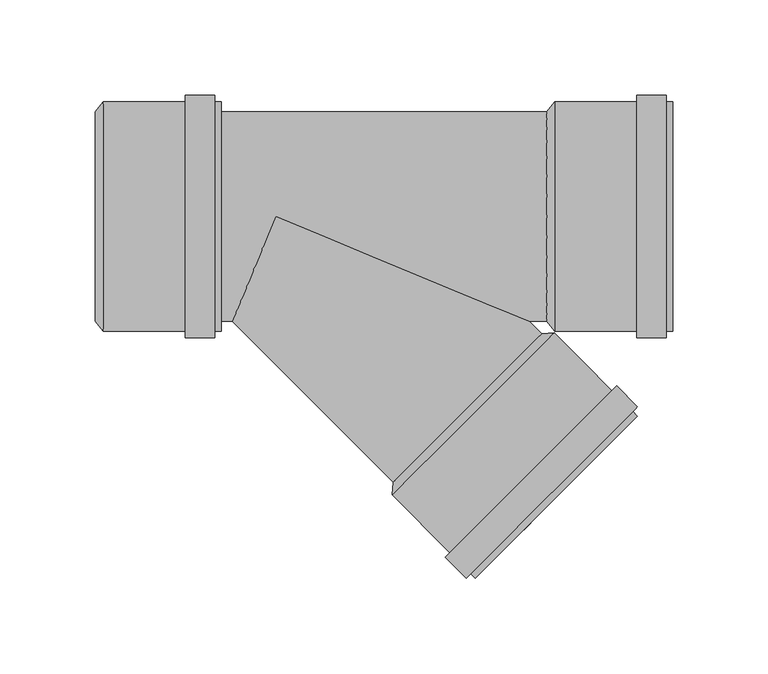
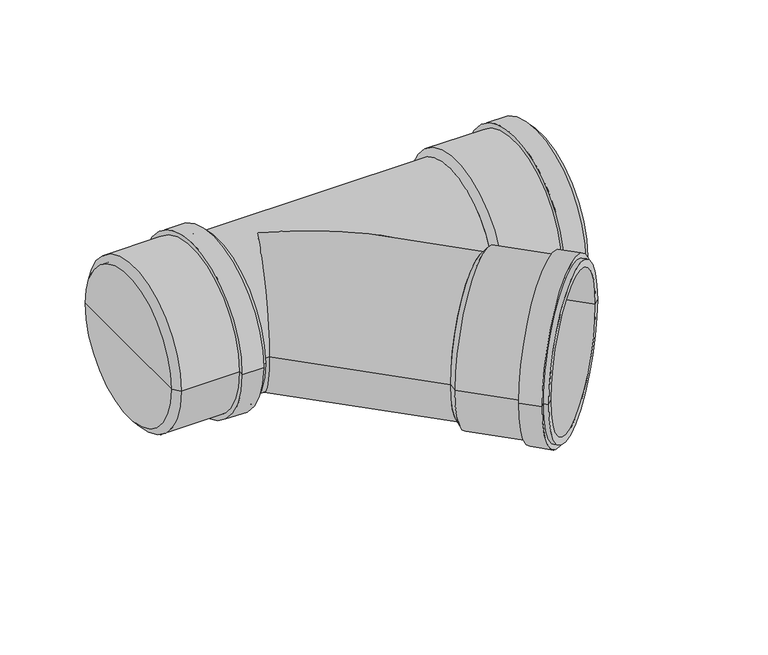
"""IFC4 building model written with IfcOpenShell, lengths in millimetres: pipe fitting geometry, pf_KGEA : pf_KGEA."""

import ifcopenshell
import ifcopenshell.guid

model = None  # the IFC model being written
_history = None  # IfcOwnerHistory: only IFC2X3 demands one
_inside = {}  # id of a spatial element -> (the spatial element, [elements in it])
_under = {}  # id of a project, library or spatial element -> (it, [spatial elements below it])
_declared = {}  # id of a project -> (the project, [libraries it declares])
_typed = {}  # id of a type object -> (the type object, [elements of that type])
_made_of = {}  # id of a material, layer set ... -> (it, [elements and type objects made of it])


def new_model(schema):
    """Start an empty IFC model of exactly this schema.

    Asked for "IFC4X3", IfcOpenShell would pick the latest addendum, in which some entities
    have other attributes; the version numbers below select the first issue.
    IFC2X3 requires an IfcOwnerHistory on every rooted entity: one is made here for all.
    """
    global model, _history
    if schema == "IFC4X3":
        model = ifcopenshell.file(schema_version=(4, 3, 0, 0))
    else:
        model = ifcopenshell.file(schema=schema)
    _inside.clear()
    _under.clear()
    _declared.clear()
    _typed.clear()
    _made_of.clear()
    _history = None
    if model.schema == "IFC2X3":
        org = make("IfcOrganization", Name="unknown")
        user = make(
            "IfcPersonAndOrganization",
            ThePerson=make("IfcPerson", FamilyName="unknown"),
            TheOrganization=org,
        )
        app = make(
            "IfcApplication",
            ApplicationDeveloper=org,
            Version="unknown",
            ApplicationFullName="unknown",
            ApplicationIdentifier="unknown",
        )
        _history = make(
            "IfcOwnerHistory",
            OwningUser=user,
            OwningApplication=app,
            ChangeAction="ADDED",
            CreationDate=0,
        )
    return model


def make(cls, **values):
    """One entity of the class cls with the attributes given. An attribute that is None is left unset."""
    return model.create_entity(
        cls, **{name: value for name, value in values.items() if value is not None}
    )


def rooted(cls, **values):
    """An entity with a GlobalId (a new one), such as an element, a storey or a relation."""
    return make(cls, GlobalId=ifcopenshell.guid.new(), OwnerHistory=_history, **values)


def si_unit(unit_type, name, prefix=None):
    """IfcSIUnit, for example si_unit("LENGTHUNIT", "METRE", prefix="MILLI")."""
    return make("IfcSIUnit", UnitType=unit_type, Prefix=prefix, Name=name)


def assignment(units):
    """IfcUnitAssignment: the units of a project."""
    return None if units is None else make("IfcUnitAssignment", Units=units)


def point(xyz):
    """IfcCartesianPoint."""
    return None if xyz is None else make("IfcCartesianPoint", Coordinates=xyz)


def direction(xyz):
    """IfcDirection."""
    return None if xyz is None else make("IfcDirection", DirectionRatios=xyz)


def frame(location, z_axis=None, x_axis=None):
    """IfcAxis2Placement3D, a coordinate frame: its origin and axes. An axis left out is left unset."""
    return make(
        "IfcAxis2Placement3D",
        Location=point(location),
        Axis=direction(z_axis),
        RefDirection=direction(x_axis),
    )


def origin():
    """The frame at (0, 0, 0) with its axes left unset."""
    return frame((0.0, 0.0, 0.0))


def place(relative_to, where):
    """IfcLocalPlacement: puts the frame where relative to a parent placement (None: the world)."""
    return make(
        "IfcLocalPlacement", PlacementRelTo=relative_to, RelativePlacement=where
    )


def context(
    kind, dimensions, precision=None, world=None, true_north=None, identifier=None
):
    """IfcGeometricRepresentationContext, for example the 3D "Model" context."""
    return make(
        "IfcGeometricRepresentationContext",
        ContextIdentifier=identifier,
        ContextType=kind,
        CoordinateSpaceDimension=dimensions,
        Precision=precision,
        WorldCoordinateSystem=world,
        TrueNorth=true_north,
    )


def project(units=None, contexts=None):
    """IfcProject with its units and contexts."""
    return rooted(
        "IfcProject",
        Name="project",
        RepresentationContexts=contexts,
        UnitsInContext=assignment(units),
    )


def spatial(cls, under=None, at=None, **own):
    """A site, building, storey or space (cls), placed at a placement, below another one or the project."""
    s = rooted(cls, ObjectPlacement=at, **own)
    if under is not None:
        _under.setdefault(under.id(), (under, []))[1].append(s)
    return s


def polyline(points):
    """IfcPolyline through the points."""
    return make("IfcPolyline", Points=[point(p) for p in points])


def circle_curve(where, radius):
    """IfcCircle in the frame where."""
    return make("IfcCircle", Position=where, Radius=radius)


def ellipse_curve(where, semi_axis1, semi_axis2):
    """IfcEllipse in the frame where."""
    return make(
        "IfcEllipse", Position=where, SemiAxis1=semi_axis1, SemiAxis2=semi_axis2
    )


def shape(context_of_items, identifier, shape_type, items):
    """IfcShapeRepresentation: the items that make up one representation, for example the "Body"."""
    return make(
        "IfcShapeRepresentation",
        ContextOfItems=context_of_items,
        RepresentationIdentifier=identifier,
        RepresentationType=shape_type,
        Items=items,
    )


def source(mapping_origin, context_of_items, identifier, shape_type, items):
    """IfcRepresentationMap: a shape defined once, which mapped items show again and again."""
    return make(
        "IfcRepresentationMap",
        MappingOrigin=mapping_origin,
        MappedRepresentation=shape(context_of_items, identifier, shape_type, items),
    )


def transform(
    local_origin,
    x_axis=None,
    y_axis=None,
    z_axis=None,
    scale=None,
    scale2=None,
    scale3=None,
    uniform=True,
):
    """IfcCartesianTransformationOperator3D, or its non-uniform kind. x_axis, y_axis, z_axis: its Axis1, 2, 3."""
    if uniform:
        return make(
            "IfcCartesianTransformationOperator3D",
            Axis1=direction(x_axis),
            Axis2=direction(y_axis),
            LocalOrigin=point(local_origin),
            Scale=scale,
            Axis3=direction(z_axis),
        )
    return make(
        "IfcCartesianTransformationOperator3DnonUniform",
        Axis1=direction(x_axis),
        Axis2=direction(y_axis),
        LocalOrigin=point(local_origin),
        Scale=scale,
        Axis3=direction(z_axis),
        Scale2=scale2,
        Scale3=scale3,
    )


def mapped(mapping_source, mapping_target):
    """IfcMappedItem: shows the shape of a source again, moved by a transform."""
    return make(
        "IfcMappedItem", MappingSource=mapping_source, MappingTarget=mapping_target
    )


def made_of(thing, what):
    """Note that an element or type object is made of a material, layer set ...; save() writes the relation."""
    if what is not None:
        _made_of.setdefault(what.id(), (what, []))[1].append(thing)
    return thing


def element(
    cls,
    number,
    at=None,
    inside=None,
    cuts=None,
    type_object=None,
    material=None,
    context=None,
    identifier="Body",
    shape_type=None,
    held_by="IfcProductDefinitionShape",
    body=None,
    shapes=None,
    **own,
):
    """One element of the class cls, such as IfcWall. Its Tag is "e" and its number.

    at: its placement. inside: the storey or other place that contains it. cuts: it is an
    opening in that element (IfcRelVoidsElement). A single representation is given by context,
    identifier, shape_type and body (its items); several are given by shapes. held_by: the class
    of the entity that holds the representations. save() writes the other relations.
    """
    e = rooted(cls, Tag="e%d" % number, ObjectPlacement=at, **own)
    if body is not None:
        shapes = [shape(context, identifier, shape_type, body)]
    if shapes is not None:
        e.Representation = make(held_by, Representations=shapes)
    if inside is not None:
        _inside.setdefault(inside.id(), (inside, []))[1].append(e)
    if cuts is not None:
        rooted(
            "IfcRelVoidsElement", RelatingBuildingElement=cuts, RelatedOpeningElement=e
        )
    if type_object is not None:
        _typed.setdefault(type_object.id(), (type_object, []))[1].append(e)
    return made_of(e, material)


def aggregate(whole, parts):
    """IfcRelAggregates: a whole, such as a stair, and the parts it consists of."""
    return rooted("IfcRelAggregates", RelatingObject=whole, RelatedObjects=parts)


def save(model, path):
    """Write the relations noted so far, then the file.

    IfcRelAggregates (storeys below a building ...), IfcRelContainedInSpatialStructure (elements
    in a storey), IfcRelDefinesByType, IfcRelAssociatesMaterial and IfcRelDeclares: one each for
    every whole, place, type object, material and project.
    """
    for whole, parts in _under.values():
        aggregate(whole, parts)
    for where, things in _inside.values():
        rooted(
            "IfcRelContainedInSpatialStructure",
            RelatedElements=things,
            RelatingStructure=where,
        )
    for kind, things in _typed.values():
        rooted("IfcRelDefinesByType", RelatedObjects=things, RelatingType=kind)
    for what, things in _made_of.values():
        rooted("IfcRelAssociatesMaterial", RelatedObjects=things, RelatingMaterial=what)
    for by, libraries in _declared.values():
        rooted("IfcRelDeclares", RelatingContext=by, RelatedDefinitions=libraries)
    model.write(path)


def plane_surface(at):
    """IfcPlane: the flat surface through the origin of the frame at, square to its z axis."""
    return make("IfcPlane", Position=at)


def cylinder_surface(at, radius):
    """IfcCylindricalSurface: all points at the distance radius from the z axis of the frame at."""
    return make("IfcCylindricalSurface", Position=at, Radius=radius)


def revolved_surface(curve, axis_point, axis_direction):
    """IfcSurfaceOfRevolution: the curve turned about the line through axis_point along axis_direction."""
    return make(
        "IfcSurfaceOfRevolution",
        SweptCurve=make("IfcArbitraryOpenProfileDef", ProfileType="CURVE", Curve=curve),
        AxisPosition=make("IfcAxis1Placement", Location=point(axis_point), Axis=direction(axis_direction)),
    )


def advanced_brep(points, edges, surfaces, faces):
    """IfcAdvancedBrep: a solid bounded by faces that lie on surfaces and meet in shared edges.

    An edge is (start, end): straight between two places in points (the first is 0);
    or (start, end, curve); or (start, end, curve, False) where it runs against its curve.
    A face is (place in surfaces, loops), or (place, loops, False) where it looks against
    its surface's normal. A loop lists edges by number (the first is 1), with a minus sign
    where the edge is run from its end to its start. The first loop is the outer one.
    """
    corners = [point(p) for p in points]
    vertices = [make("IfcVertexPoint", VertexGeometry=c) for c in corners]
    made = []
    for start, end, *more in edges:
        made.append(
            make(
                "IfcEdgeCurve",
                EdgeStart=vertices[start],
                EdgeEnd=vertices[end],
                EdgeGeometry=more[0] if more else make("IfcPolyline", Points=[corners[start], corners[end]]),
                SameSense=more[1] if len(more) > 1 else True,
            )
        )
    hull = []
    for where, loops, *sense in faces:
        bounds = []
        for j, loop in enumerate(loops):
            ring = [make("IfcOrientedEdge", EdgeElement=made[abs(k) - 1], Orientation=k > 0) for k in loop]
            bounds.append(
                make(
                    "IfcFaceOuterBound" if j == 0 else "IfcFaceBound",
                    Bound=make("IfcEdgeLoop", EdgeList=ring),
                    Orientation=True,
                )
            )
        hull.append(make("IfcAdvancedFace", Bounds=bounds, FaceSurface=surfaces[where], SameSense=sense[0] if sense else True))
    return make("IfcAdvancedBrep", Outer=make("IfcClosedShell", CfsFaces=hull))


def pipe_fitting_2837489d(model_context):
    return source(origin(), model_context, "Body", "AdvancedBrep", [
        advanced_brep(
        [(61.5890006, -139.3707466, 0.0), (139.3707466, -61.5890006, 0.0), (145.9468396, -60.9526045, 0.0), (60.9526045, -145.9468396, 0.0), (100.4798736, -100.4798736, 0.0), (104.6518036, -189.6460387, 0.0), (189.6460387, -104.6518036, 0.0), (186.0397941, -108.2580482, 0.0), (108.2580482, -186.0397941, 0.0), (102.2476406, -187.2418757, 0.0), (187.2418757, -102.2476406, 0.0), (99.8434775, -189.6460387, 0.0), (189.6460387, -99.8434775, 0.0), (88.8833224, -178.6858836, 0.0), (178.6858836, -88.8833224, 0.0), (91.2874855, -176.2817205, 0.0), (176.2817205, -91.2874855, 0.0), (64.5588491, -142.3405951, 0.0), (142.3405951, -64.5588491, 0.0), (103.4497221, -103.4497221, 0.0)],
        [
            (0, 1, circle_curve(frame((100.4798736, -100.4798736, 0.0), z_axis=(0.7071067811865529, -0.7071067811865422, 0.0), x_axis=(0.7071067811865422, 0.7071067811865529, 0.0)), 55.0)),
            (1, 2),
            (2, 3, circle_curve(frame((103.4497221, -103.4497221, 0.0), z_axis=(-0.7071067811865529, 0.7071067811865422, 0.0), x_axis=(0.7071067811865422, 0.7071067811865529, 0.0)), 60.1)),
            (3, 0),
            (1, 0, circle_curve(frame((100.4798736, -100.4798736, 0.0), z_axis=(0.7071067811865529, -0.7071067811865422, 0.0), x_axis=(0.7071067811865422, 0.7071067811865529, 0.0)), 55.0)),
            (3, 2, circle_curve(frame((103.4497221, -103.4497221, 0.0), z_axis=(-0.7071067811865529, 0.7071067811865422, 0.0), x_axis=(0.7071067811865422, 0.7071067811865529, 0.0)), 60.1)),
            (4, 1),
            (0, 4),
            (5, 6, circle_curve(frame((147.1489212, -147.1489212, 0.0), z_axis=(0.7071067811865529, -0.7071067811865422, 0.0), x_axis=(0.7071067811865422, 0.7071067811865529, 0.0)), 60.1)),
            (6, 7),
            (7, 8, circle_curve(frame((147.1489212, -147.1489212, 0.0), z_axis=(-0.7071067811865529, 0.7071067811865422, 0.0), x_axis=(0.7071067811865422, 0.7071067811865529, 0.0)), 55.0)),
            (8, 5),
            (6, 5, circle_curve(frame((147.1489212, -147.1489212, 0.0), z_axis=(0.7071067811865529, -0.7071067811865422, 0.0), x_axis=(0.7071067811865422, 0.7071067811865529, 0.0)), 60.1)),
            (8, 7, circle_curve(frame((147.1489212, -147.1489212, 0.0), z_axis=(-0.7071067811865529, 0.7071067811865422, 0.0), x_axis=(0.7071067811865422, 0.7071067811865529, 0.0)), 55.0)),
            (9, 10, circle_curve(frame((144.7447581, -144.7447581, 0.0), z_axis=(0.7071067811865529, -0.7071067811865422, 0.0), x_axis=(0.7071067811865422, 0.7071067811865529, 0.0)), 60.1)),
            (10, 6),
            (5, 9),
            (10, 9, circle_curve(frame((144.7447581, -144.7447581, 0.0), z_axis=(0.7071067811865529, -0.7071067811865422, 0.0), x_axis=(0.7071067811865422, 0.7071067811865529, 0.0)), 60.1)),
            (11, 12, circle_curve(frame((144.7447581, -144.7447581, 0.0), z_axis=(0.7071067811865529, -0.7071067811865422, 0.0), x_axis=(0.7071067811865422, 0.7071067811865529, 0.0)), 63.5)),
            (12, 10),
            (9, 11),
            (12, 11, circle_curve(frame((144.7447581, -144.7447581, 0.0), z_axis=(0.7071067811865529, -0.7071067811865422, 0.0), x_axis=(0.7071067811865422, 0.7071067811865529, 0.0)), 63.5)),
            (13, 14, circle_curve(frame((133.784603, -133.784603, 0.0), z_axis=(0.7071067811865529, -0.7071067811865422, 0.0), x_axis=(0.7071067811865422, 0.7071067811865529, 0.0)), 63.5)),
            (14, 12),
            (11, 13),
            (14, 13, circle_curve(frame((133.784603, -133.784603, 0.0), z_axis=(0.7071067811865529, -0.7071067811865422, 0.0), x_axis=(0.7071067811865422, 0.7071067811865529, 0.0)), 63.5)),
            (15, 16, circle_curve(frame((133.784603, -133.784603, 0.0), z_axis=(0.7071067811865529, -0.7071067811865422, 0.0), x_axis=(0.7071067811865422, 0.7071067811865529, 0.0)), 60.1)),
            (16, 14),
            (13, 15),
            (16, 15, circle_curve(frame((133.784603, -133.784603, 0.0), z_axis=(0.7071067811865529, -0.7071067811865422, 0.0), x_axis=(0.7071067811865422, 0.7071067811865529, 0.0)), 60.1)),
            (2, 16),
            (15, 3),
            (17, 18, circle_curve(frame((103.4497221, -103.4497221, 0.0), z_axis=(0.7071067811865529, -0.7071067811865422, 0.0), x_axis=(0.7071067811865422, 0.7071067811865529, 0.0)), 55.0)),
            (18, 19),
            (19, 17),
            (18, 17, circle_curve(frame((103.4497221, -103.4497221, 0.0), z_axis=(0.7071067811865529, -0.7071067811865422, 0.0), x_axis=(0.7071067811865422, 0.7071067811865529, 0.0)), 55.0)),
            (7, 18),
            (17, 8),
        ],
        [
            revolved_surface(polyline([(145.9468396, -60.9526045, 0.0), (139.3707466, -61.5890006, 0.0)]), (100.4798736, -100.4798736, 0.0), (-0.7071067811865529, 0.7071067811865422, 0.0)),
            plane_surface(frame((100.4798736, -100.4798736, 0.0), z_axis=(-0.7071067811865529, 0.7071067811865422, 0.0), x_axis=(0.7071067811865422, 0.7071067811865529, 0.0))),
            plane_surface(frame((147.1489212, -147.1489212, 0.0), z_axis=(0.7071067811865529, -0.7071067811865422, 0.0), x_axis=(0.7071067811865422, 0.7071067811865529, 0.0))),
            cylinder_surface(frame((100.4798736, -100.4798736, 0.0), z_axis=(-0.7071067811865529, 0.7071067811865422, 0.0), x_axis=(0.7071067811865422, 0.7071067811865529, 0.0)), 60.1),
            plane_surface(frame((144.7447581, -144.7447581, 0.0), z_axis=(0.7071067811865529, -0.7071067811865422, 0.0), x_axis=(0.7071067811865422, 0.7071067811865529, 0.0))),
            cylinder_surface(frame((100.4798736, -100.4798736, 0.0), z_axis=(-0.7071067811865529, 0.7071067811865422, 0.0), x_axis=(0.7071067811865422, 0.7071067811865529, 0.0)), 63.5),
            plane_surface(frame((133.784603, -133.784603, 0.0), z_axis=(-0.7071067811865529, 0.7071067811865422, 0.0), x_axis=(0.7071067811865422, 0.7071067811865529, 0.0))),
            plane_surface(frame((103.4497221, -103.4497221, 0.0), z_axis=(0.7071067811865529, -0.7071067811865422, 0.0), x_axis=(0.7071067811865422, 0.7071067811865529, 0.0))),
            revolved_surface(polyline([(142.34059506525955, -64.55884913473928, 0.0), (186.03979416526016, -108.25804823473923, 0.0)]), (100.4798736, -100.4798736, 0.0), (-0.7071067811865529, 0.7071067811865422, 0.0)),
        ],
        [
            (0, [[1, 2, 3, 4]]),
            (0, [[5, -4, 6, -2]]),
            (1, [[7, -1, 8]]),
            (1, [[-8, -5, -7]]),
            (2, [[9, 10, 11, 12]]),
            (2, [[13, -12, 14, -10]]),
            (3, [[15, 16, -9, 17]]),
            (3, [[18, -17, -13, -16]]),
            (4, [[19, 20, -15, 21]]),
            (4, [[22, -21, -18, -20]]),
            (5, [[23, 24, -19, 25]]),
            (5, [[26, -25, -22, -24]]),
            (6, [[27, 28, -23, 29]]),
            (6, [[30, -29, -26, -28]]),
            (3, [[-3, 31, -27, 32]]),
            (3, [[-6, -32, -30, -31]]),
            (7, [[33, 34, 35]]),
            (7, [[36, -35, -34]]),
            (8, [[-11, 37, -33, 38]]),
            (8, [[-14, -38, -36, -37]]),
        ],
    ),
        advanced_brep(
        [(142.1, -55.0, 0.0), (142.1, 55.0, 0.0), (146.3, 60.1, 0.0), (146.3, -60.1, 0.0), (142.1, 0.0, 0.0), (208.1, -60.1, 0.0), (208.1, 60.1, 0.0), (208.1, 55.0, 0.0), (208.1, -55.0, 0.0), (204.7, -60.1, 0.0), (204.7, 60.1, 0.0), (204.7, -63.5, 0.0), (204.7, 63.5, 0.0), (189.2, -63.5, 0.0), (189.2, 63.5, 0.0), (189.2, -60.1, 0.0), (189.2, 60.1, 0.0), (146.3, -55.0, 0.0), (146.3, 55.0, 0.0), (146.3, 0.0, 0.0)],
        [
            (0, 1, circle_curve(frame((142.1, 0.0, 0.0), z_axis=(1.0, 0.0, 0.0), x_axis=(0.0, 1.0, 0.0)), 55.0)),
            (1, 2),
            (2, 3, circle_curve(frame((146.3, 0.0, 0.0), z_axis=(-1.0, 0.0, 0.0), x_axis=(0.0, 1.0, 0.0)), 60.1)),
            (3, 0),
            (1, 0, circle_curve(frame((142.1, 0.0, 0.0), z_axis=(1.0, 0.0, 0.0), x_axis=(0.0, 1.0, 0.0)), 55.0)),
            (3, 2, circle_curve(frame((146.3, 0.0, 0.0), z_axis=(-1.0, 0.0, 0.0), x_axis=(0.0, 1.0, 0.0)), 60.1)),
            (4, 1),
            (0, 4),
            (5, 6, circle_curve(frame((208.1, 0.0, 0.0), z_axis=(1.0, 0.0, 0.0), x_axis=(0.0, 1.0, 0.0)), 60.1)),
            (6, 7),
            (7, 8, circle_curve(frame((208.1, 0.0, 0.0), z_axis=(-1.0, 0.0, 0.0), x_axis=(0.0, 1.0, 0.0)), 55.0)),
            (8, 5),
            (6, 5, circle_curve(frame((208.1, 0.0, 0.0), z_axis=(1.0, 0.0, 0.0), x_axis=(0.0, 1.0, 0.0)), 60.1)),
            (8, 7, circle_curve(frame((208.1, 0.0, 0.0), z_axis=(-1.0, 0.0, 0.0), x_axis=(0.0, 1.0, 0.0)), 55.0)),
            (9, 10, circle_curve(frame((204.7, 0.0, 0.0), z_axis=(1.0, 0.0, 0.0), x_axis=(0.0, 1.0, 0.0)), 60.1)),
            (10, 6),
            (5, 9),
            (10, 9, circle_curve(frame((204.7, 0.0, 0.0), z_axis=(1.0, 0.0, 0.0), x_axis=(0.0, 1.0, 0.0)), 60.1)),
            (11, 12, circle_curve(frame((204.7, 0.0, 0.0), z_axis=(1.0, 0.0, 0.0), x_axis=(0.0, 1.0, 0.0)), 63.5)),
            (12, 10),
            (9, 11),
            (12, 11, circle_curve(frame((204.7, 0.0, 0.0), z_axis=(1.0, 0.0, 0.0), x_axis=(0.0, 1.0, 0.0)), 63.5)),
            (13, 14, circle_curve(frame((189.2, 0.0, 0.0), z_axis=(1.0, 0.0, 0.0), x_axis=(0.0, 1.0, 0.0)), 63.5)),
            (14, 12),
            (11, 13),
            (14, 13, circle_curve(frame((189.2, 0.0, 0.0), z_axis=(1.0, 0.0, 0.0), x_axis=(0.0, 1.0, 0.0)), 63.5)),
            (15, 16, circle_curve(frame((189.2, 0.0, 0.0), z_axis=(1.0, 0.0, 0.0), x_axis=(0.0, 1.0, 0.0)), 60.1)),
            (16, 14),
            (13, 15),
            (16, 15, circle_curve(frame((189.2, 0.0, 0.0), z_axis=(1.0, 0.0, 0.0), x_axis=(0.0, 1.0, 0.0)), 60.1)),
            (2, 16),
            (15, 3),
            (17, 18, circle_curve(frame((146.3, 0.0, 0.0), z_axis=(1.0, 0.0, 0.0), x_axis=(0.0, 1.0, 0.0)), 55.0)),
            (18, 19),
            (19, 17),
            (18, 17, circle_curve(frame((146.3, 0.0, 0.0), z_axis=(1.0, 0.0, 0.0), x_axis=(0.0, 1.0, 0.0)), 55.0)),
            (7, 18),
            (17, 8),
        ],
        [
            revolved_surface(polyline([(146.3, 60.1, 0.0), (142.1, 55.0, 0.0)]), (142.1, 0.0, 0.0), (-1.0, 0.0, 0.0)),
            plane_surface(frame((142.1, 0.0, 0.0), z_axis=(-1.0, 0.0, 0.0), x_axis=(0.0, 1.0, 0.0))),
            plane_surface(frame((208.1, 0.0, 0.0), z_axis=(1.0, 0.0, 0.0), x_axis=(0.0, 1.0, 0.0))),
            cylinder_surface(frame((142.1, 0.0, 0.0), z_axis=(-1.0, 0.0, 0.0), x_axis=(0.0, 1.0, 0.0)), 60.1),
            plane_surface(frame((204.7, 0.0, 0.0), z_axis=(1.0, 0.0, 0.0), x_axis=(0.0, 1.0, 0.0))),
            cylinder_surface(frame((142.1, 0.0, 0.0), z_axis=(-1.0, 0.0, 0.0), x_axis=(0.0, 1.0, 0.0)), 63.5),
            plane_surface(frame((189.2, 0.0, 0.0), z_axis=(-1.0, 0.0, 0.0), x_axis=(0.0, 1.0, 0.0))),
            plane_surface(frame((146.3, 0.0, 0.0), z_axis=(1.0, 0.0, 0.0), x_axis=(0.0, 1.0, 0.0))),
            revolved_surface(polyline([(146.3, 55.0, 0.0), (208.1, 55.0, 0.0)]), (142.1, 0.0, 0.0), (-1.0, 0.0, 0.0)),
        ],
        [
            (0, [[1, 2, 3, 4]]),
            (0, [[5, -4, 6, -2]]),
            (1, [[7, -1, 8]]),
            (1, [[-8, -5, -7]]),
            (2, [[9, 10, 11, 12]]),
            (2, [[13, -12, 14, -10]]),
            (3, [[15, 16, -9, 17]]),
            (3, [[18, -17, -13, -16]]),
            (4, [[19, 20, -15, 21]]),
            (4, [[22, -21, -18, -20]]),
            (5, [[23, 24, -19, 25]]),
            (5, [[26, -25, -22, -24]]),
            (6, [[27, 28, -23, 29]]),
            (6, [[30, -29, -26, -28]]),
            (3, [[-3, 31, -27, 32]]),
            (3, [[-6, -32, -30, -31]]),
            (7, [[33, 34, 35]]),
            (7, [[36, -35, -34]]),
            (8, [[-11, 37, -33, 38]]),
            (8, [[-14, -38, -36, -37]]),
        ],
    ),
        advanced_brep(
        [(-94.6, -55.0, 0.0), (-94.6, 55.0, 0.0), (-90.4, 60.1, 0.0), (-90.4, -60.1, 0.0), (-94.6, 0.0, 0.0), (-28.6, -60.1, 0.0), (-28.6, 60.1, 0.0), (-28.6, 55.0, 0.0), (-28.6, -55.0, 0.0), (-32.0, -60.1, 0.0), (-32.0, 60.1, 0.0), (-32.0, -63.5, 0.0), (-32.0, 63.5, 0.0), (-47.5, -63.5, 0.0), (-47.5, 63.5, 0.0), (-47.5, -60.1, 0.0), (-47.5, 60.1, 0.0), (-90.4, -55.0, 0.0), (-90.4, 55.0, 0.0), (-90.4, 0.0, 0.0)],
        [
            (0, 1, circle_curve(frame((-94.6, 0.0, 0.0), z_axis=(1.0, 0.0, 0.0), x_axis=(0.0, 1.0, 0.0)), 55.0)),
            (1, 2),
            (2, 3, circle_curve(frame((-90.4, 0.0, 0.0), z_axis=(-1.0, 0.0, 0.0), x_axis=(0.0, 1.0, 0.0)), 60.1)),
            (3, 0),
            (1, 0, circle_curve(frame((-94.6, 0.0, 0.0), z_axis=(1.0, 0.0, 0.0), x_axis=(0.0, 1.0, 0.0)), 55.0)),
            (3, 2, circle_curve(frame((-90.4, 0.0, 0.0), z_axis=(-1.0, 0.0, 0.0), x_axis=(0.0, 1.0, 0.0)), 60.1)),
            (4, 1),
            (0, 4),
            (5, 6, circle_curve(frame((-28.6, 0.0, 0.0), z_axis=(1.0, 0.0, 0.0), x_axis=(0.0, 1.0, 0.0)), 60.1)),
            (6, 7),
            (7, 8, circle_curve(frame((-28.6, 0.0, 0.0), z_axis=(-1.0, 0.0, 0.0), x_axis=(0.0, 1.0, 0.0)), 55.0)),
            (8, 5),
            (6, 5, circle_curve(frame((-28.6, 0.0, 0.0), z_axis=(1.0, 0.0, 0.0), x_axis=(0.0, 1.0, 0.0)), 60.1)),
            (8, 7, circle_curve(frame((-28.6, 0.0, 0.0), z_axis=(-1.0, 0.0, 0.0), x_axis=(0.0, 1.0, 0.0)), 55.0)),
            (9, 10, circle_curve(frame((-32.0, 0.0, 0.0), z_axis=(1.0, 0.0, 0.0), x_axis=(0.0, 1.0, 0.0)), 60.1)),
            (10, 6),
            (5, 9),
            (10, 9, circle_curve(frame((-32.0, 0.0, 0.0), z_axis=(1.0, 0.0, 0.0), x_axis=(0.0, 1.0, 0.0)), 60.1)),
            (11, 12, circle_curve(frame((-32.0, 0.0, 0.0), z_axis=(1.0, 0.0, 0.0), x_axis=(0.0, 1.0, 0.0)), 63.5)),
            (12, 10),
            (9, 11),
            (12, 11, circle_curve(frame((-32.0, 0.0, 0.0), z_axis=(1.0, 0.0, 0.0), x_axis=(0.0, 1.0, 0.0)), 63.5)),
            (13, 14, circle_curve(frame((-47.5, 0.0, 0.0), z_axis=(1.0, 0.0, 0.0), x_axis=(0.0, 1.0, 0.0)), 63.5)),
            (14, 12),
            (11, 13),
            (14, 13, circle_curve(frame((-47.5, 0.0, 0.0), z_axis=(1.0, 0.0, 0.0), x_axis=(0.0, 1.0, 0.0)), 63.5)),
            (15, 16, circle_curve(frame((-47.5, 0.0, 0.0), z_axis=(1.0, 0.0, 0.0), x_axis=(0.0, 1.0, 0.0)), 60.1)),
            (16, 14),
            (13, 15),
            (16, 15, circle_curve(frame((-47.5, 0.0, 0.0), z_axis=(1.0, 0.0, 0.0), x_axis=(0.0, 1.0, 0.0)), 60.1)),
            (2, 16),
            (15, 3),
            (17, 18, circle_curve(frame((-90.4, 0.0, 0.0), z_axis=(1.0, 0.0, 0.0), x_axis=(0.0, 1.0, 0.0)), 55.0)),
            (18, 19),
            (19, 17),
            (18, 17, circle_curve(frame((-90.4, 0.0, 0.0), z_axis=(1.0, 0.0, 0.0), x_axis=(0.0, 1.0, 0.0)), 55.0)),
            (7, 18),
            (17, 8),
        ],
        [
            revolved_surface(polyline([(-90.4, 60.1, 0.0), (-94.6, 55.0, 0.0)]), (-94.6, 0.0, 0.0), (-1.0, 0.0, 0.0)),
            plane_surface(frame((-94.6, 0.0, 0.0), z_axis=(-1.0, 0.0, 0.0), x_axis=(0.0, 1.0, 0.0))),
            plane_surface(frame((-28.6, 0.0, 0.0), z_axis=(1.0, 0.0, 0.0), x_axis=(0.0, 1.0, 0.0))),
            cylinder_surface(frame((-94.6, 0.0, 0.0), z_axis=(-1.0, 0.0, 0.0), x_axis=(0.0, 1.0, 0.0)), 60.1),
            plane_surface(frame((-32.0, 0.0, 0.0), z_axis=(1.0, 0.0, 0.0), x_axis=(0.0, 1.0, 0.0))),
            cylinder_surface(frame((-94.6, 0.0, 0.0), z_axis=(-1.0, 0.0, 0.0), x_axis=(0.0, 1.0, 0.0)), 63.5),
            plane_surface(frame((-47.5, 0.0, 0.0), z_axis=(-1.0, 0.0, 0.0), x_axis=(0.0, 1.0, 0.0))),
            plane_surface(frame((-90.4, 0.0, 0.0), z_axis=(1.0, 0.0, 0.0), x_axis=(0.0, 1.0, 0.0))),
            revolved_surface(polyline([(-90.4, 55.0, 0.0), (-28.599999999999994, 55.0, 0.0)]), (-94.6, 0.0, 0.0), (-1.0, 0.0, 0.0)),
        ],
        [
            (0, [[1, 2, 3, 4]]),
            (0, [[5, -4, 6, -2]]),
            (1, [[7, -1, 8]]),
            (1, [[-8, -5, -7]]),
            (2, [[9, 10, 11, 12]]),
            (2, [[13, -12, 14, -10]]),
            (3, [[15, 16, -9, 17]]),
            (3, [[18, -17, -13, -16]]),
            (4, [[19, 20, -15, 21]]),
            (4, [[22, -21, -18, -20]]),
            (5, [[23, 24, -19, 25]]),
            (5, [[26, -25, -22, -24]]),
            (6, [[27, 28, -23, 29]]),
            (6, [[30, -29, -26, -28]]),
            (3, [[-3, 31, -27, 32]]),
            (3, [[-6, -32, -30, -31]]),
            (7, [[33, 34, 35]]),
            (7, [[36, -35, -34]]),
            (8, [[-11, 37, -33, 38]]),
            (8, [[-14, -38, -36, -37]]),
        ],
    ),
        advanced_brep(
        [(-90.4, -55.0, 0.0), (-90.4, 55.0, 0.0), (142.1, -55.0, 0.0), (142.1, 55.0, 0.0), (-22.7817459, -55.0, 0.0), (0.0, 0.0, 55.0), (132.7817459, -55.0, 0.0), (0.0, 0.0, -55.0), (61.5890006, -139.3707466, 0.0), (139.3707466, -61.5890006, 0.0)],
        [
            (0, 1, circle_curve(frame((-90.4, 0.0, 0.0), z_axis=(-1.0, 0.0, 0.0), x_axis=(0.0, 1.0, 0.0)), 55.0)),
            (1, 0, circle_curve(frame((-90.4, 0.0, 0.0), z_axis=(-1.0, 0.0, 0.0), x_axis=(0.0, 1.0, 0.0)), 55.0)),
            (2, 3, circle_curve(frame((142.1, 0.0, 0.0), z_axis=(1.0, 0.0, 0.0), x_axis=(0.0, 1.0, 0.0)), 55.0)),
            (3, 2, circle_curve(frame((142.1, 0.0, 0.0), z_axis=(1.0, 0.0, 0.0), x_axis=(0.0, 1.0, 0.0)), 55.0)),
            (0, 4),
            (4, 5, ellipse_curve(frame((0.0, 0.0, 0.0), z_axis=(-0.9238795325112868, 0.38268343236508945, 0.0), x_axis=(-0.3826834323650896, -0.923879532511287, 0.0)), 59.531571, 55.0)),
            (5, 6, ellipse_curve(frame((0.0, 0.0, 0.0), z_axis=(0.38268343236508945, 0.923879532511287, 0.0), x_axis=(-0.9238795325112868, 0.3826834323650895, 0.0)), 143.7219261, 55.0)),
            (6, 2),
            (3, 1),
            (6, 7, ellipse_curve(frame((0.0, 0.0, 0.0), z_axis=(0.38268343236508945, 0.923879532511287, 0.0), x_axis=(-0.9238795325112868, 0.3826834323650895, 0.0)), 143.7219261, 55.0)),
            (7, 4, ellipse_curve(frame((0.0, 0.0, 0.0), z_axis=(-0.9238795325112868, 0.38268343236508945, 0.0), x_axis=(-0.3826834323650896, -0.923879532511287, 0.0)), 59.531571, 55.0)),
            (8, 9, circle_curve(frame((100.4798736, -100.4798736, 0.0), z_axis=(0.707106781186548, -0.707106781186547, 0.0), x_axis=(0.707106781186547, 0.707106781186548, 0.0)), 55.0)),
            (9, 8, circle_curve(frame((100.4798736, -100.4798736, 0.0), z_axis=(0.707106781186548, -0.707106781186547, 0.0), x_axis=(0.707106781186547, 0.707106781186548, 0.0)), 55.0)),
            (9, 6),
            (4, 8),
        ],
        [
            plane_surface(frame((-90.4, 0.0, 0.0), z_axis=(-1.0, 0.0, 0.0), x_axis=(0.0, 0.0, 1.0))),
            plane_surface(frame((142.1, 0.0, 0.0), z_axis=(1.0, 0.0, 0.0), x_axis=(0.0, 0.0, 1.0))),
            cylinder_surface(frame((-90.4, 0.0, 0.0), z_axis=(-1.0, 0.0, 0.0), x_axis=(0.0, 1.0, 0.0)), 55.0),
            plane_surface(frame((100.4798736, -100.4798736, 0.0), z_axis=(0.7071067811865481, -0.707106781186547, 0.0), x_axis=(0.0, 0.0, 1.0))),
            cylinder_surface(frame((0.0, 0.0, 0.0), z_axis=(-0.707106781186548, 0.707106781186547, 0.0), x_axis=(0.707106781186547, 0.707106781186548, 0.0)), 55.0),
        ],
        [
            (0, [[1, 2]]),
            (1, [[3, 4]]),
            (2, [[-1, 5, 6, 7, 8, -4, 9]]),
            (2, [[-2, -9, -3, -8, 10, 11, -5]]),
            (3, [[12, 13]]),
            (4, [[-13, 14, -7, -6, 15]]),
            (4, [[-12, -15, -11, -10, -14]]),
        ],
    ),
    ])


if __name__ == "__main__":
    model = new_model("IFC4")
    model_context = context("Model", 3, world=origin())
    ifc_project = project(units=[si_unit("LENGTHUNIT", "METRE", prefix="MILLI")], contexts=[model_context])
    site = spatial("IfcSite", under=ifc_project)
    building = spatial("IfcBuilding", under=site)
    placement = place(None, origin())
    pipe_fitting_shape = pipe_fitting_2837489d(model_context)
    element("IfcPipeFitting", 1, ObjectType="pf_KGEA : pf_KGEA", at=placement, inside=building, context=model_context, shape_type="MappedRepresentation", body=[
        mapped(pipe_fitting_shape, transform((0.0, 0.0, 0.0), x_axis=(1.0, 0.0, 0.0), y_axis=(0.0, 1.0, 0.0), z_axis=(0.0, 0.0, 1.0))),
    ])
    save(model, "model.ifc")
